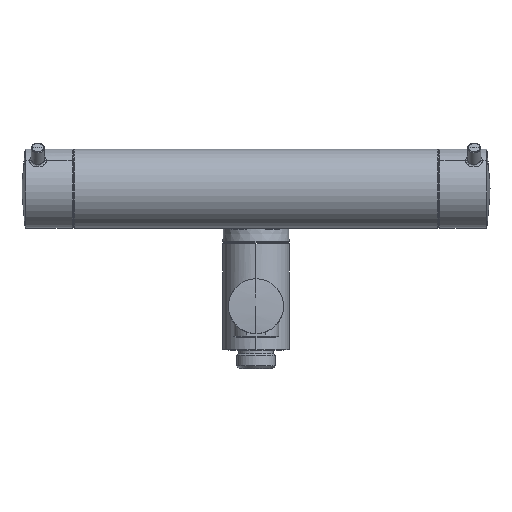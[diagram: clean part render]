
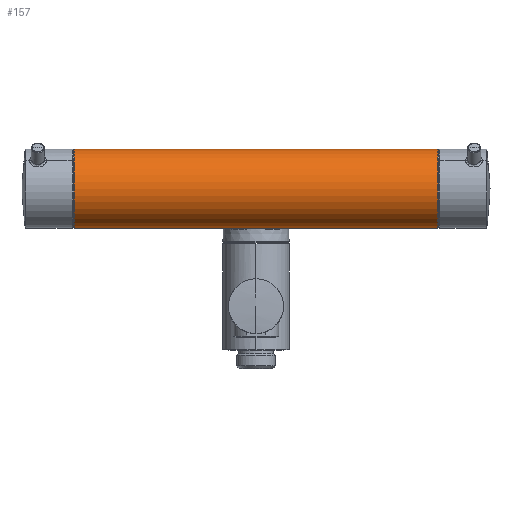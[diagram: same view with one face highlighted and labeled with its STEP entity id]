
A CAD part, top view. The second image highlights one B-rep face of the part: STEP entity #157.
In plain terms, the highlighted cylindrical face has radius 21 mm (diameter 42 mm), a partial arc.
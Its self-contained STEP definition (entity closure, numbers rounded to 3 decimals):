
#29=CARTESIAN_POINT('',(11.394,-20.702,33.474));
#31=DIRECTION('',(1.,0.,0.));
#32=VECTOR('',#31,192.);
#33=CARTESIAN_POINT('',(-96.,20.702,33.474));
#34=LINE('',#33,#32);
#35=DIRECTION('',(-1.,0.,0.));
#36=VECTOR('',#35,84.606);
#37=CARTESIAN_POINT('',(96.,-20.702,33.474));
#38=LINE('',#37,#36);
#39=CARTESIAN_POINT('',(11.394,-20.702,33.474));
#40=CARTESIAN_POINT('',(10.825,-20.808,34.096));
#41=CARTESIAN_POINT('',(9.569,-20.949,35.256));
#42=CARTESIAN_POINT('',(7.256,-21.012,36.744));
#43=CARTESIAN_POINT('',(4.636,-20.989,37.814));
#44=CARTESIAN_POINT('',(1.824,-20.954,38.399));
#45=CARTESIAN_POINT('',(-1.061,-20.948,38.471));
#46=CARTESIAN_POINT('',(-3.92,-20.979,38.013));
#47=CARTESIAN_POINT('',(-5.681,-21.,37.392));
#48=CARTESIAN_POINT('',(-6.536,-21.,37.));
#50=CARTESIAN_POINT('',(-6.536,-21.,37.));
#51=CARTESIAN_POINT('',(-7.202,-21.,36.69));
#52=CARTESIAN_POINT('',(-8.45,-20.987,36.014));
#53=CARTESIAN_POINT('',(-10.065,-20.898,34.809));
#54=CARTESIAN_POINT('',(-10.979,-20.78,33.933));
#55=CARTESIAN_POINT('',(-11.394,-20.702,33.474));
#57=DIRECTION('',(-1.,0.,0.));
#58=VECTOR('',#57,84.606);
#59=CARTESIAN_POINT('',(-11.394,-20.702,33.474));
#60=LINE('',#59,#58);
#69=CARTESIAN_POINT('',(-96.,0.,37.));
#70=DIRECTION('',(1.,0.,0.));
#71=DIRECTION('',(0.,0.986,-0.168));
#72=AXIS2_PLACEMENT_3D('',#69,#70,#71);
#94=CARTESIAN_POINT('',(96.,0.,37.));
#95=DIRECTION('',(-1.,0.,0.));
#96=DIRECTION('',(0.,-0.986,-0.168));
#97=AXIS2_PLACEMENT_3D('',#94,#95,#96);
#99=VERTEX_POINT('',#50);
#100=VERTEX_POINT('',#55);
#101=VERTEX_POINT('',#29);
#102=CARTESIAN_POINT('',(96.,-20.702,33.474));
#103=VERTEX_POINT('',#102);
#108=CARTESIAN_POINT('',(-96.,-20.702,33.474));
#109=VERTEX_POINT('',#108);
#111=CARTESIAN_POINT('',(-96.,20.702,33.474));
#113=VERTEX_POINT('',#111);
#116=CARTESIAN_POINT('',(96.,20.702,33.474));
#117=VERTEX_POINT('',#116);
#138=CARTESIAN_POINT('',(96.,0.,37.));
#139=DIRECTION('',(-1.,0.,0.));
#140=DIRECTION('',(0.,1.,0.));
#141=AXIS2_PLACEMENT_3D('',#138,#139,#140);
#142=CYLINDRICAL_SURFACE('',#141,21.);
#144=ORIENTED_EDGE('',*,*,#143,.T.);
#146=ORIENTED_EDGE('',*,*,#145,.F.);
#147=ORIENTED_EDGE('',*,*,#123,.T.);
#149=ORIENTED_EDGE('',*,*,#148,.T.);
#151=ORIENTED_EDGE('',*,*,#150,.T.);
#152=ORIENTED_EDGE('',*,*,#131,.T.);
#154=ORIENTED_EDGE('',*,*,#153,.F.);
#155=EDGE_LOOP('',(#144,#146,#147,#149,#151,#152,#154));
#156=FACE_OUTER_BOUND('',#155,.F.);
#157=ADVANCED_FACE('',(#156),#142,.T.);
#49=B_SPLINE_CURVE_WITH_KNOTS('',3,(#39,#40,#41,#42,#43,#44,#45,#46,#47,#48),
.UNSPECIFIED.,.F.,.F.,(4,1,1,1,1,1,1,4),(0.,0.143,
0.286,0.429,0.571,0.714,
0.857,1.),.UNSPECIFIED.);
#56=B_SPLINE_CURVE_WITH_KNOTS('',3,(#50,#51,#52,#53,#54,#55),.UNSPECIFIED.,.F.,
.F.,(4,1,1,4),(0.,0.333,0.667,1.),.UNSPECIFIED.);
#73=CIRCLE('',#72,21.);
#98=CIRCLE('',#97,21.);
#123=EDGE_CURVE('',#103,#101,#38,.T.);
#131=EDGE_CURVE('',#100,#109,#60,.T.);
#143=EDGE_CURVE('',#113,#117,#34,.T.);
#145=EDGE_CURVE('',#103,#117,#98,.T.);
#148=EDGE_CURVE('',#101,#99,#49,.T.);
#150=EDGE_CURVE('',#99,#100,#56,.T.);
#153=EDGE_CURVE('',#113,#109,#73,.T.);
